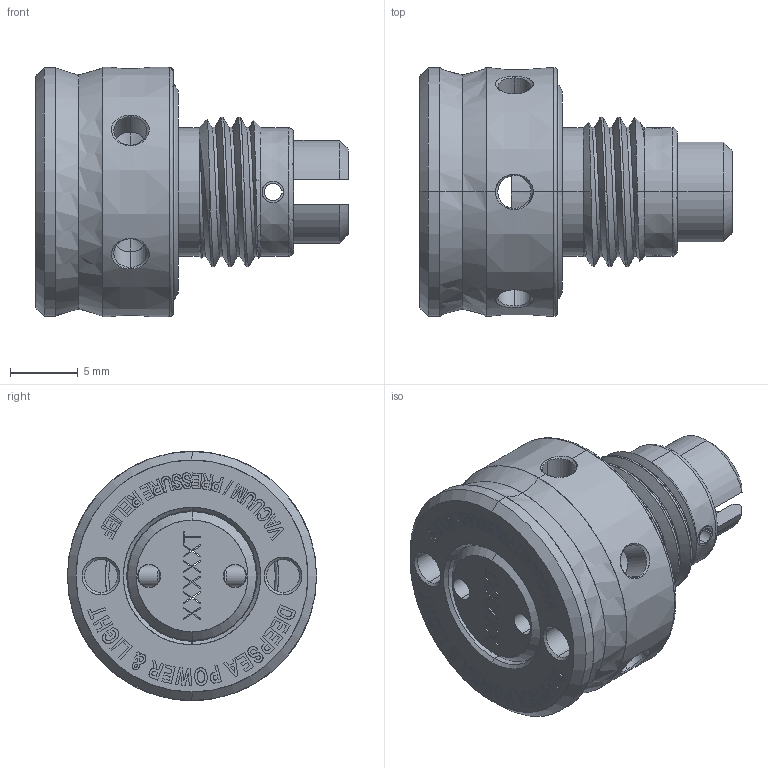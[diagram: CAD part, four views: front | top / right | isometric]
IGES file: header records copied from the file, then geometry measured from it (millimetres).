
Start section: SolidWorks IGES file using analytic representation for surfaces
Global section: file name: S:\3D_Product_Models\Pressure_Relief_Valves\PRV-FaceSeal-0D-D-20140708a.IGS; native system: SolidWorks 2014; preprocessor: SolidWorks 2014; author: CJ_Chew; date: 140708.134139; units: inch
Bounding box: 23.08 x 18.41 x 18.41 mm (x, y, z)
Surface area: 2755.5 mm2 (no closed solid volume)
Topology: 0 solids, 0 shells, 456 faces, 5869 edges, 5861 vertices
Faces by surface type: bspline 352, revolution 104
